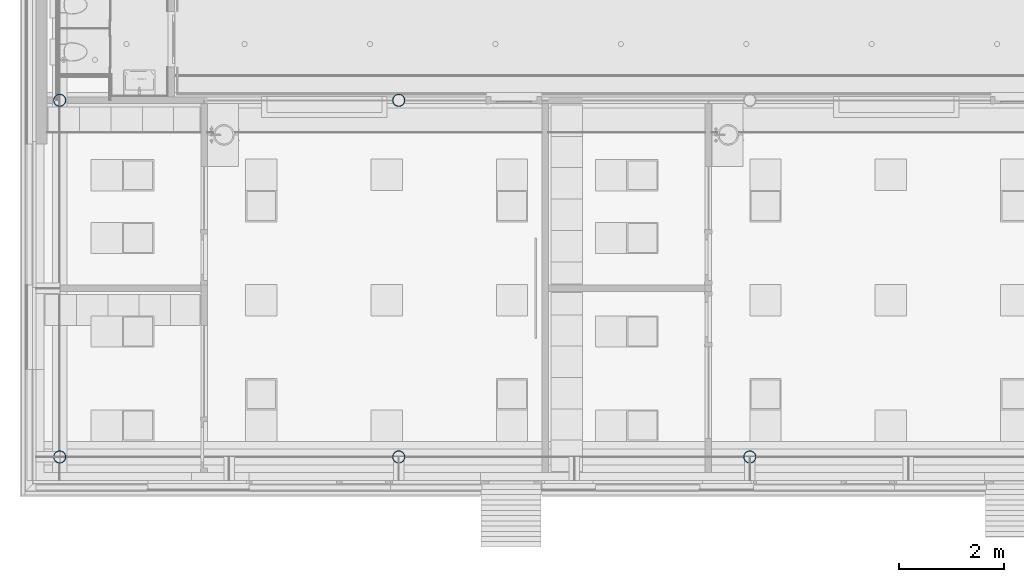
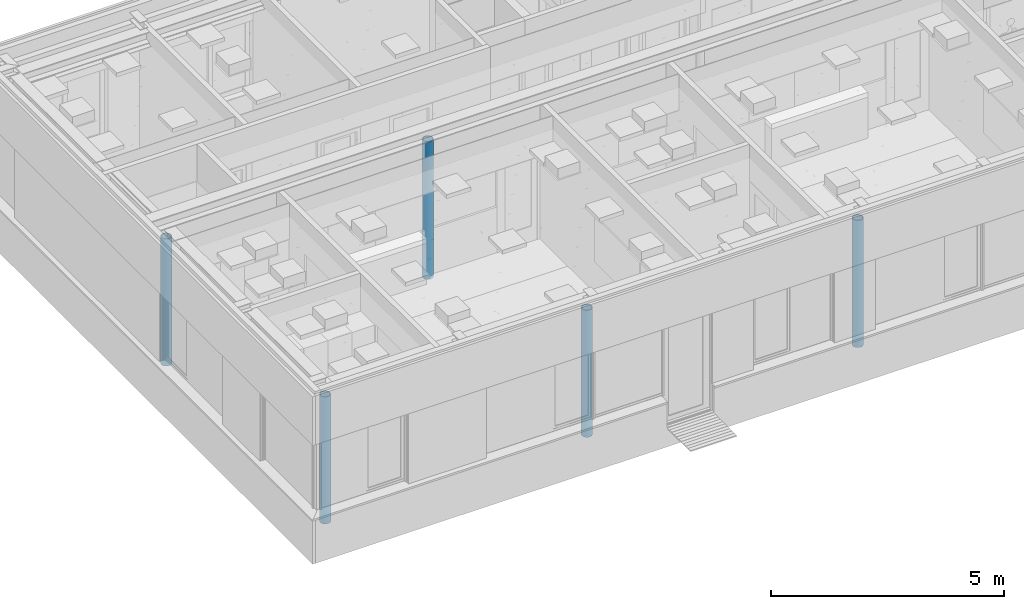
# One storey, part 10 of 347: 5 columns.
"""IFC2X3 building model written with IfcOpenShell, lengths in millimetres."""

from ifc_helpers import new_model, entity, si_unit, converted_unit, derived_unit, money_unit, direction, frame, origin_with_axes, place, context, subcontext, project, spatial, faceted_brep, material, type_object, element, save


model = new_model("IFC2X3")

# Units and contexts
model_context = context("Model", 3, precision=0.01, world=origin_with_axes(), true_north=direction((0.0, 1.0)))
plan_context = context("Plan", 3, precision=0.01, world=origin_with_axes(), true_north=direction((0.0, 1.0)))
body_context = subcontext(model_context, "Body", "Model", "MODEL_VIEW")
ifc_project = project(units=[si_unit("LENGTHUNIT", "METRE", prefix="MILLI"), si_unit("AREAUNIT", "SQUARE_METRE"), si_unit("VOLUMEUNIT", "CUBIC_METRE"), converted_unit("PLANEANGLEUNIT", "DEGREE", entity("IfcPlaneAngleMeasure", 0.0174532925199), si_unit("PLANEANGLEUNIT", "RADIAN"), dimensions=[0, 0, 0, 0, 0, 0, 0]), money_unit("EUR"), converted_unit("TIMEUNIT", "Year", entity("IfcTimeMeasure", 31556926.0), si_unit("TIMEUNIT", "SECOND"), dimensions=[0, 0, 1, 0, 0, 0, 0]), si_unit("MASSUNIT", "GRAM", prefix="KILO"), si_unit("THERMODYNAMICTEMPERATUREUNIT", "DEGREE_CELSIUS"), si_unit("LUMINOUSINTENSITYUNIT", "LUMEN"), si_unit("ENERGYUNIT", "JOULE", prefix="MEGA"), derived_unit("THERMALCONDUCTANCEUNIT", [(si_unit("POWERUNIT", "WATT"), 1), (si_unit("LENGTHUNIT", "METRE"), -1), (si_unit("THERMODYNAMICTEMPERATUREUNIT", "KELVIN"), -1)]), derived_unit("SPECIFICHEATCAPACITYUNIT", [(si_unit("ENERGYUNIT", "JOULE"), 1), (si_unit("MASSUNIT", "GRAM", prefix="KILO"), -1), (si_unit("THERMODYNAMICTEMPERATUREUNIT", "KELVIN"), -1)]), derived_unit("MASSDENSITYUNIT", [(si_unit("MASSUNIT", "GRAM", prefix="KILO"), 1), (si_unit("VOLUMEUNIT", "CUBIC_METRE"), -1)])], contexts=[model_context, plan_context])

# Site, building, storey
site_placement = place(None, origin_with_axes())
site = spatial("IfcSite", under=ifc_project, at=site_placement, Name="Site", CompositionType="ELEMENT")
building_placement = place(site_placement, origin_with_axes())
building = spatial("IfcBuilding", under=site, at=building_placement, Name="Naam gebouw", CompositionType="ELEMENT")
storey_placement = place(building_placement, origin_with_axes())
storey = spatial("IfcBuildingStorey", under=building, at=storey_placement, Name="begane grond", CompositionType="ELEMENT", Elevation=0.0)

# Columns
ifc_material = material(Name="Metaal - Staal C wit")
column_type = type_object("IfcColumnType", Name="Lucht D245", PredefinedType="COLUMN")
column_1_placement = place(storey_placement, frame((5300.0, 12125.0, -70.0), z_axis=(0.0, 0.0, 1.0), x_axis=(1.0, 0.0, 0.0)))
element("IfcColumn", 1, at=column_1_placement, inside=storey, type_object=column_type, material=ifc_material, Name="28_kolom ø 273mm", ObjectType="COLUMN", context=body_context, shape_type="Brep", body=[
    faceted_brep([(-122.25, 0.0, 0.0), (-119.184937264, -27.2031841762, 0.0), (-119.184937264, -27.2031841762, 3330.0), (-122.25, 0.0, 3330.0), (-119.184937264, 27.2031841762, 0.0), (-110.143444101, 53.0422871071, 0.0), (-95.5788987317, 76.2216282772, 0.0), (-76.2216282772, 95.5788987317, 0.0), (-53.0422871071, 110.143444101, 0.0), (-27.2031841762, 119.184937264, 0.0), (0.0, 122.25, 0.0), (27.2031841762, 119.184937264, 0.0), (53.0422871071, 110.143444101, 0.0), (76.2216282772, 95.5788987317, 0.0), (95.5788987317, 76.2216282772, 0.0), (110.143444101, 53.0422871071, 0.0), (119.184937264, 27.2031841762, 0.0), (122.25, 0.0, 0.0), (119.184937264, -27.2031841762, 0.0), (110.143444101, -53.0422871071, 0.0), (95.5788987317, -76.2216282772, 0.0), (76.2216282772, -95.5788987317, 0.0), (53.0422871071, -110.143444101, 0.0), (27.2031841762, -119.184937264, 0.0), (0.0, -122.25, 0.0), (-27.2031841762, -119.184937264, 0.0), (-53.0422871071, -110.143444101, 0.0), (-76.2216282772, -95.5788987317, 0.0), (-95.5788987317, -76.2216282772, 0.0), (-110.143444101, -53.0422871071, 0.0), (-106.25, 0.0, 0.0), (-102.629619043, -27.4995235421, 0.0), (-92.0151991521, -53.125, 0.0), (-75.1300955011, -75.1300955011, 0.0), (-53.125, -92.0151991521, 0.0), (-27.4995235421, -102.629619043, 0.0), (0.0, -106.25, 0.0), (27.4995235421, -102.629619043, 0.0), (53.125, -92.0151991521, 0.0), (75.1300955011, -75.1300955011, 0.0), (92.0151991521, -53.125, 0.0), (102.629619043, -27.4995235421, 0.0), (106.25, 0.0, 0.0), (102.629619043, 27.4995235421, 0.0), (92.0151991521, 53.125, 0.0), (75.1300955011, 75.1300955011, 0.0), (53.125, 92.0151991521, 0.0), (27.4995235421, 102.629619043, 0.0), (0.0, 106.25, 0.0), (-27.4995235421, 102.629619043, 0.0), (-53.125, 92.0151991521, 0.0), (-75.1300955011, 75.1300955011, 0.0), (-92.0151991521, 53.125, 0.0), (-102.629619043, 27.4995235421, 0.0), (-110.143444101, -53.0422871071, 3330.0), (-95.5788987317, -76.2216282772, 3330.0), (-76.2216282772, -95.5788987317, 3330.0), (-53.0422871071, -110.143444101, 3330.0), (-27.2031841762, -119.184937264, 3330.0), (0.0, -122.25, 3330.0), (27.2031841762, -119.184937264, 3330.0), (53.0422871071, -110.143444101, 3330.0), (76.2216282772, -95.5788987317, 3330.0), (95.5788987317, -76.2216282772, 3330.0), (110.143444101, -53.0422871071, 3330.0), (119.184937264, -27.2031841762, 3330.0), (122.25, 0.0, 3330.0), (119.184937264, 27.2031841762, 3330.0), (110.143444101, 53.0422871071, 3330.0), (95.5788987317, 76.2216282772, 3330.0), (76.2216282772, 95.5788987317, 3330.0), (53.0422871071, 110.143444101, 3330.0), (27.2031841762, 119.184937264, 3330.0), (0.0, 122.25, 3330.0), (-27.2031841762, 119.184937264, 3330.0), (-53.0422871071, 110.143444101, 3330.0), (-76.2216282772, 95.5788987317, 3330.0), (-95.5788987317, 76.2216282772, 3330.0), (-110.143444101, 53.0422871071, 3330.0), (-119.184937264, 27.2031841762, 3330.0), (-106.25, 0.0, 3330.0), (-102.629619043, 27.4995235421, 3330.0), (-92.0151991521, 53.125, 3330.0), (-75.1300955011, 75.1300955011, 3330.0), (-53.125, 92.0151991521, 3330.0), (-27.4995235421, 102.629619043, 3330.0), (0.0, 106.25, 3330.0), (27.4995235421, 102.629619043, 3330.0), (53.125, 92.0151991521, 3330.0), (75.1300955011, 75.1300955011, 3330.0), (92.0151991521, 53.125, 3330.0), (102.629619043, 27.4995235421, 3330.0), (106.25, 0.0, 3330.0), (102.629619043, -27.4995235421, 3330.0), (92.0151991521, -53.125, 3330.0), (75.1300955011, -75.1300955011, 3330.0), (53.125, -92.0151991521, 3330.0), (27.4995235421, -102.629619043, 3330.0), (0.0, -106.25, 3330.0), (-27.4995235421, -102.629619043, 3330.0), (-53.125, -92.0151991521, 3330.0), (-75.1300955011, -75.1300955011, 3330.0), (-92.0151991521, -53.125, 3330.0), (-102.629619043, -27.4995235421, 3330.0)], [[[0, 1, 2, 3]], [[0, 4, 5, 6, 7, 8, 9, 10, 11, 12, 13, 14, 15, 16, 17, 18, 19, 20, 21, 22, 23, 24, 25, 26, 27, 28, 29, 1], [30, 31, 32, 33, 34, 35, 36, 37, 38, 39, 40, 41, 42, 43, 44, 45, 46, 47, 48, 49, 50, 51, 52, 53]], [[1, 29, 54, 2]], [[3, 2, 54, 55, 56, 57, 58, 59, 60, 61, 62, 63, 64, 65, 66, 67, 68, 69, 70, 71, 72, 73, 74, 75, 76, 77, 78, 79], [80, 81, 82, 83, 84, 85, 86, 87, 88, 89, 90, 91, 92, 93, 94, 95, 96, 97, 98, 99, 100, 101, 102, 103]], [[4, 0, 3, 79]], [[5, 4, 79, 78]], [[6, 5, 78, 77]], [[7, 6, 77, 76]], [[8, 7, 76, 75]], [[9, 8, 75, 74]], [[10, 9, 74, 73]], [[11, 10, 73, 72]], [[12, 11, 72, 71]], [[13, 12, 71, 70]], [[14, 13, 70, 69]], [[15, 14, 69, 68]], [[16, 15, 68, 67]], [[17, 16, 67, 66]], [[18, 17, 66, 65]], [[19, 18, 65, 64]], [[20, 19, 64, 63]], [[21, 20, 63, 62]], [[22, 21, 62, 61]], [[23, 22, 61, 60]], [[24, 23, 60, 59]], [[25, 24, 59, 58]], [[26, 25, 58, 57]], [[27, 26, 57, 56]], [[28, 27, 56, 55]], [[29, 28, 55, 54]], [[31, 30, 80, 103]], [[32, 31, 103, 102]], [[33, 32, 102, 101]], [[34, 33, 101, 100]], [[35, 34, 100, 99]], [[36, 35, 99, 98]], [[37, 36, 98, 97]], [[38, 37, 97, 96]], [[39, 38, 96, 95]], [[40, 39, 95, 94]], [[41, 40, 94, 93]], [[42, 41, 93, 92]], [[43, 42, 92, 91]], [[44, 43, 91, 90]], [[45, 44, 90, 89]], [[46, 45, 89, 88]], [[47, 46, 88, 87]], [[48, 47, 87, 86]], [[49, 48, 86, 85]], [[50, 49, 85, 84]], [[51, 50, 84, 83]], [[52, 51, 83, 82]], [[53, 52, 82, 81]], [[30, 53, 81, 80]]]),
])
column_2_placement = place(storey_placement, frame((11787.5, 12125.0, -70.0), z_axis=(0.0, 0.0, 1.0), x_axis=(1.0, 0.0, 0.0)))
element("IfcColumn", 2, at=column_2_placement, inside=storey, type_object=column_type, material=ifc_material, Name="28_kolom ø 273mm", ObjectType="COLUMN", context=body_context, shape_type="Brep", body=[
    faceted_brep([(27.8124515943, 102.5, 1070.0), (27.4995235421, 102.629619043, 1070.0), (27.4995235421, 102.629619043, 0.0), (53.125, 92.0151991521, 0.0), (53.125, 92.0151991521, 3610.0), (27.4995235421, 102.629619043, 3610.0), (27.4995235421, 102.629619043, 1270.0), (27.8124515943, 102.5, 1270.0), (65.2067587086, 102.5, 1070.0), (53.0422871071, 110.143444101, 1070.0), (27.2031841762, 119.184937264, 1070.0), (0.0, 122.25, 1070.0), (-27.2031841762, 119.184937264, 1070.0), (-53.0422871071, 110.143444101, 1070.0), (-65.2067587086, 102.5, 1070.0), (-27.8124515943, 102.5, 1070.0), (-27.4995235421, 102.629619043, 1070.0), (0.0, 106.25, 1070.0), (0.0, 106.25, 0.0), (-119.184937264, -27.2031841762, 0.0), (-122.25, 0.0, 0.0), (-119.184937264, 27.2031841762, 0.0), (-110.143444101, 53.0422871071, 0.0), (-95.5788987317, 76.2216282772, 0.0), (-76.2216282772, 95.5788987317, 0.0), (-53.0422871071, 110.143444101, 0.0), (-27.2031841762, 119.184937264, 0.0), (0.0, 122.25, 0.0), (27.2031841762, 119.184937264, 0.0), (53.0422871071, 110.143444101, 0.0), (76.2216282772, 95.5788987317, 0.0), (95.5788987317, 76.2216282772, 0.0), (110.143444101, 53.0422871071, 0.0), (119.184937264, 27.2031841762, 0.0), (122.25, 0.0, 0.0), (119.184937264, -27.2031841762, 0.0), (110.143444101, -53.0422871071, 0.0), (95.5788987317, -76.2216282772, 0.0), (76.2216282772, -95.5788987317, 0.0), (53.0422871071, -110.143444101, 0.0), (27.2031841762, -119.184937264, 0.0), (0.0, -122.25, 0.0), (-27.2031841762, -119.184937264, 0.0), (-53.0422871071, -110.143444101, 0.0), (-76.2216282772, -95.5788987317, 0.0), (-95.5788987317, -76.2216282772, 0.0), (-110.143444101, -53.0422871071, 0.0), (-102.629619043, 27.4995235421, 0.0), (-106.25, 0.0, 0.0), (-102.629619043, -27.4995235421, 0.0), (-92.0151991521, -53.125, 0.0), (-75.1300955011, -75.1300955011, 0.0), (-53.125, -92.0151991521, 0.0), (-27.4995235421, -102.629619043, 0.0), (0.0, -106.25, 0.0), (27.4995235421, -102.629619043, 0.0), (53.125, -92.0151991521, 0.0), (75.1300955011, -75.1300955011, 0.0), (92.0151991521, -53.125, 0.0), (102.629619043, -27.4995235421, 0.0), (106.25, 0.0, 0.0), (102.629619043, 27.4995235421, 0.0), (92.0151991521, 53.125, 0.0), (75.1300955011, 75.1300955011, 0.0), (-27.4995235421, 102.629619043, 0.0), (-53.125, 92.0151991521, 0.0), (-75.1300955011, 75.1300955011, 0.0), (-92.0151991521, 53.125, 0.0), (75.1300955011, 75.1300955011, 3610.0), (-119.184937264, 27.2031841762, 3610.0), (-122.25, 0.0, 3610.0), (-119.184937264, -27.2031841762, 3610.0), (-110.143444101, -53.0422871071, 3610.0), (-95.5788987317, -76.2216282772, 3610.0), (-76.2216282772, -95.5788987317, 3610.0), (-53.0422871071, -110.143444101, 3610.0), (-27.2031841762, -119.184937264, 3610.0), (0.0, -122.25, 3610.0), (27.2031841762, -119.184937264, 3610.0), (53.0422871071, -110.143444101, 3610.0), (76.2216282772, -95.5788987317, 3610.0), (95.5788987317, -76.2216282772, 3610.0), (110.143444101, -53.0422871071, 3610.0), (119.184937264, -27.2031841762, 3610.0), (122.25, 0.0, 3610.0), (119.184937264, 27.2031841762, 3610.0), (110.143444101, 53.0422871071, 3610.0), (95.5788987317, 76.2216282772, 3610.0), (76.2216282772, 95.5788987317, 3610.0), (53.0422871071, 110.143444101, 3610.0), (27.2031841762, 119.184937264, 3610.0), (0.0, 122.25, 3610.0), (-27.2031841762, 119.184937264, 3610.0), (-53.0422871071, 110.143444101, 3610.0), (-76.2216282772, 95.5788987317, 3610.0), (-95.5788987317, 76.2216282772, 3610.0), (-110.143444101, 53.0422871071, 3610.0), (-102.629619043, -27.4995235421, 3610.0), (-106.25, 0.0, 3610.0), (-102.629619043, 27.4995235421, 3610.0), (-92.0151991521, 53.125, 3610.0), (-75.1300955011, 75.1300955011, 3610.0), (-53.125, 92.0151991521, 3610.0), (-27.4995235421, 102.629619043, 3610.0), (0.0, 106.25, 3610.0), (92.0151991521, 53.125, 3610.0), (102.629619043, 27.4995235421, 3610.0), (106.25, 0.0, 3610.0), (102.629619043, -27.4995235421, 3610.0), (92.0151991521, -53.125, 3610.0), (75.1300955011, -75.1300955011, 3610.0), (53.125, -92.0151991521, 3610.0), (27.4995235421, -102.629619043, 3610.0), (0.0, -106.25, 3610.0), (-27.4995235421, -102.629619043, 3610.0), (-53.125, -92.0151991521, 3610.0), (-75.1300955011, -75.1300955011, 3610.0), (-92.0151991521, -53.125, 3610.0), (0.0, 106.25, 1270.0), (53.0422871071, 110.143444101, 1270.0), (65.2067587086, 102.5, 1270.0), (-27.4995235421, 102.629619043, 1270.0), (-27.8124515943, 102.5, 1270.0), (-65.2067587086, 102.5, 1270.0), (-53.0422871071, 110.143444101, 1270.0), (-27.2031841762, 119.184937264, 1270.0), (0.0, 122.25, 1270.0), (27.2031841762, 119.184937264, 1270.0)], [[[0, 1, 2, 3, 4, 5, 6, 7]], [[8, 9, 10, 11, 12, 13, 14, 15, 16, 17, 1, 0]], [[1, 17, 18, 2]], [[19, 20, 21, 22, 23, 24, 25, 26, 27, 28, 29, 30, 31, 32, 33, 34, 35, 36, 37, 38, 39, 40, 41, 42, 43, 44, 45, 46], [47, 48, 49, 50, 51, 52, 53, 54, 55, 56, 57, 58, 59, 60, 61, 62, 63, 3, 2, 18, 64, 65, 66, 67]], [[4, 3, 63, 68]], [[69, 70, 71, 72, 73, 74, 75, 76, 77, 78, 79, 80, 81, 82, 83, 84, 85, 86, 87, 88, 89, 90, 91, 92, 93, 94, 95, 96], [97, 98, 99, 100, 101, 102, 103, 104, 5, 4, 68, 105, 106, 107, 108, 109, 110, 111, 112, 113, 114, 115, 116, 117]], [[118, 6, 5, 104]], [[119, 120, 7, 6, 118, 121, 122, 123, 124, 125, 126, 127]], [[120, 8, 0, 7]], [[9, 8, 120, 119, 89, 88, 30, 29]], [[10, 9, 29, 28]], [[11, 10, 28, 27]], [[12, 11, 27, 26]], [[13, 12, 26, 25]], [[14, 13, 25, 24, 94, 93, 124, 123]], [[122, 15, 14, 123]], [[122, 121, 103, 102, 65, 64, 16, 15]], [[17, 16, 64, 18]], [[70, 20, 19, 71]], [[69, 21, 20, 70]], [[96, 22, 21, 69]], [[95, 23, 22, 96]], [[94, 24, 23, 95]], [[87, 31, 30, 88]], [[86, 32, 31, 87]], [[85, 33, 32, 86]], [[84, 34, 33, 85]], [[83, 35, 34, 84]], [[82, 36, 35, 83]], [[81, 37, 36, 82]], [[80, 38, 37, 81]], [[79, 39, 38, 80]], [[78, 40, 39, 79]], [[77, 41, 40, 78]], [[76, 42, 41, 77]], [[75, 43, 42, 76]], [[74, 44, 43, 75]], [[73, 45, 44, 74]], [[72, 46, 45, 73]], [[71, 19, 46, 72]], [[98, 48, 47, 99]], [[97, 49, 48, 98]], [[117, 50, 49, 97]], [[116, 51, 50, 117]], [[115, 52, 51, 116]], [[114, 53, 52, 115]], [[113, 54, 53, 114]], [[112, 55, 54, 113]], [[111, 56, 55, 112]], [[110, 57, 56, 111]], [[109, 58, 57, 110]], [[108, 59, 58, 109]], [[107, 60, 59, 108]], [[106, 61, 60, 107]], [[105, 62, 61, 106]], [[68, 63, 62, 105]], [[101, 66, 65, 102]], [[100, 67, 66, 101]], [[99, 47, 67, 100]], [[119, 127, 90, 89]], [[127, 126, 91, 90]], [[126, 125, 92, 91]], [[125, 124, 93, 92]], [[121, 118, 104, 103]]]),
])
column_3_placement = place(storey_placement, frame((5300.0, 5300.0, -70.0), z_axis=(0.0, 0.0, 1.0), x_axis=(1.0, 0.0, 0.0)))
element("IfcColumn", 3, at=column_3_placement, inside=storey, type_object=column_type, material=ifc_material, Name="28_kolom ø 273mm", ObjectType="COLUMN", context=body_context, shape_type="Brep", body=[
    faceted_brep([(-122.25, 0.0, 0.0), (-119.184937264, -27.2031841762, 0.0), (-119.184937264, -27.2031841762, 3330.0), (-122.25, 0.0, 3330.0), (-119.184937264, 27.2031841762, 0.0), (-110.143444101, 53.0422871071, 0.0), (-95.5788987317, 76.2216282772, 0.0), (-76.2216282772, 95.5788987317, 0.0), (-53.0422871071, 110.143444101, 0.0), (-27.2031841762, 119.184937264, 0.0), (0.0, 122.25, 0.0), (27.2031841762, 119.184937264, 0.0), (53.0422871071, 110.143444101, 0.0), (76.2216282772, 95.5788987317, 0.0), (95.5788987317, 76.2216282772, 0.0), (110.143444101, 53.0422871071, 0.0), (119.184937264, 27.2031841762, 0.0), (122.25, 0.0, 0.0), (119.184937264, -27.2031841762, 0.0), (110.143444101, -53.0422871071, 0.0), (95.5788987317, -76.2216282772, 0.0), (76.2216282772, -95.5788987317, 0.0), (53.0422871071, -110.143444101, 0.0), (27.2031841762, -119.184937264, 0.0), (0.0, -122.25, 0.0), (-27.2031841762, -119.184937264, 0.0), (-53.0422871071, -110.143444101, 0.0), (-76.2216282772, -95.5788987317, 0.0), (-95.5788987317, -76.2216282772, 0.0), (-110.143444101, -53.0422871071, 0.0), (-106.25, 0.0, 0.0), (-102.629619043, -27.4995235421, 0.0), (-92.0151991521, -53.125, 0.0), (-75.1300955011, -75.1300955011, 0.0), (-53.125, -92.0151991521, 0.0), (-27.4995235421, -102.629619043, 0.0), (0.0, -106.25, 0.0), (27.4995235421, -102.629619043, 0.0), (53.125, -92.0151991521, 0.0), (75.1300955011, -75.1300955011, 0.0), (92.0151991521, -53.125, 0.0), (102.629619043, -27.4995235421, 0.0), (106.25, 0.0, 0.0), (102.629619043, 27.4995235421, 0.0), (92.0151991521, 53.125, 0.0), (75.1300955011, 75.1300955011, 0.0), (53.125, 92.0151991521, 0.0), (27.4995235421, 102.629619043, 0.0), (0.0, 106.25, 0.0), (-27.4995235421, 102.629619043, 0.0), (-53.125, 92.0151991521, 0.0), (-75.1300955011, 75.1300955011, 0.0), (-92.0151991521, 53.125, 0.0), (-102.629619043, 27.4995235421, 0.0), (-110.143444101, -53.0422871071, 3330.0), (-95.5788987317, -76.2216282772, 3330.0), (-76.2216282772, -95.5788987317, 3330.0), (-53.0422871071, -110.143444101, 3330.0), (-27.2031841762, -119.184937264, 3330.0), (0.0, -122.25, 3330.0), (27.2031841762, -119.184937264, 3330.0), (53.0422871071, -110.143444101, 3330.0), (76.2216282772, -95.5788987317, 3330.0), (95.5788987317, -76.2216282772, 3330.0), (110.143444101, -53.0422871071, 3330.0), (119.184937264, -27.2031841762, 3330.0), (122.25, 0.0, 3330.0), (119.184937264, 27.2031841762, 3330.0), (110.143444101, 53.0422871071, 3330.0), (95.5788987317, 76.2216282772, 3330.0), (76.2216282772, 95.5788987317, 3330.0), (53.0422871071, 110.143444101, 3330.0), (27.2031841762, 119.184937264, 3330.0), (0.0, 122.25, 3330.0), (-27.2031841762, 119.184937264, 3330.0), (-53.0422871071, 110.143444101, 3330.0), (-76.2216282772, 95.5788987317, 3330.0), (-95.5788987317, 76.2216282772, 3330.0), (-110.143444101, 53.0422871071, 3330.0), (-119.184937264, 27.2031841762, 3330.0), (-106.25, 0.0, 3330.0), (-102.629619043, 27.4995235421, 3330.0), (-92.0151991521, 53.125, 3330.0), (-75.1300955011, 75.1300955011, 3330.0), (-53.125, 92.0151991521, 3330.0), (-27.4995235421, 102.629619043, 3330.0), (0.0, 106.25, 3330.0), (27.4995235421, 102.629619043, 3330.0), (53.125, 92.0151991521, 3330.0), (75.1300955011, 75.1300955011, 3330.0), (92.0151991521, 53.125, 3330.0), (102.629619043, 27.4995235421, 3330.0), (106.25, 0.0, 3330.0), (102.629619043, -27.4995235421, 3330.0), (92.0151991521, -53.125, 3330.0), (75.1300955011, -75.1300955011, 3330.0), (53.125, -92.0151991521, 3330.0), (27.4995235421, -102.629619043, 3330.0), (0.0, -106.25, 3330.0), (-27.4995235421, -102.629619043, 3330.0), (-53.125, -92.0151991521, 3330.0), (-75.1300955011, -75.1300955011, 3330.0), (-92.0151991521, -53.125, 3330.0), (-102.629619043, -27.4995235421, 3330.0)], [[[0, 1, 2, 3]], [[0, 4, 5, 6, 7, 8, 9, 10, 11, 12, 13, 14, 15, 16, 17, 18, 19, 20, 21, 22, 23, 24, 25, 26, 27, 28, 29, 1], [30, 31, 32, 33, 34, 35, 36, 37, 38, 39, 40, 41, 42, 43, 44, 45, 46, 47, 48, 49, 50, 51, 52, 53]], [[1, 29, 54, 2]], [[3, 2, 54, 55, 56, 57, 58, 59, 60, 61, 62, 63, 64, 65, 66, 67, 68, 69, 70, 71, 72, 73, 74, 75, 76, 77, 78, 79], [80, 81, 82, 83, 84, 85, 86, 87, 88, 89, 90, 91, 92, 93, 94, 95, 96, 97, 98, 99, 100, 101, 102, 103]], [[4, 0, 3, 79]], [[5, 4, 79, 78]], [[6, 5, 78, 77]], [[7, 6, 77, 76]], [[8, 7, 76, 75]], [[9, 8, 75, 74]], [[10, 9, 74, 73]], [[11, 10, 73, 72]], [[12, 11, 72, 71]], [[13, 12, 71, 70]], [[14, 13, 70, 69]], [[15, 14, 69, 68]], [[16, 15, 68, 67]], [[17, 16, 67, 66]], [[18, 17, 66, 65]], [[19, 18, 65, 64]], [[20, 19, 64, 63]], [[21, 20, 63, 62]], [[22, 21, 62, 61]], [[23, 22, 61, 60]], [[24, 23, 60, 59]], [[25, 24, 59, 58]], [[26, 25, 58, 57]], [[27, 26, 57, 56]], [[28, 27, 56, 55]], [[29, 28, 55, 54]], [[31, 30, 80, 103]], [[32, 31, 103, 102]], [[33, 32, 102, 101]], [[34, 33, 101, 100]], [[35, 34, 100, 99]], [[36, 35, 99, 98]], [[37, 36, 98, 97]], [[38, 37, 97, 96]], [[39, 38, 96, 95]], [[40, 39, 95, 94]], [[41, 40, 94, 93]], [[42, 41, 93, 92]], [[43, 42, 92, 91]], [[44, 43, 91, 90]], [[45, 44, 90, 89]], [[46, 45, 89, 88]], [[47, 46, 88, 87]], [[48, 47, 87, 86]], [[49, 48, 86, 85]], [[50, 49, 85, 84]], [[51, 50, 84, 83]], [[52, 51, 83, 82]], [[53, 52, 82, 81]], [[30, 53, 81, 80]]]),
])
column_4_placement = place(storey_placement, frame((11787.5, 5300.0, -70.0), z_axis=(0.0, 0.0, 1.0), x_axis=(1.0, 0.0, 0.0)))
element("IfcColumn", 4, at=column_4_placement, inside=storey, type_object=column_type, material=ifc_material, Name="28_kolom ø 273mm", ObjectType="COLUMN", context=body_context, shape_type="Brep", body=[
    faceted_brep([(-122.25, 0.0, 0.0), (-119.184937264, -27.2031841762, 0.0), (-119.184937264, -27.2031841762, 3330.0), (-122.25, 0.0, 3330.0), (-119.184937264, 27.2031841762, 0.0), (-110.143444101, 53.0422871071, 0.0), (-95.5788987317, 76.2216282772, 0.0), (-76.2216282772, 95.5788987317, 0.0), (-53.0422871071, 110.143444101, 0.0), (-27.2031841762, 119.184937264, 0.0), (0.0, 122.25, 0.0), (27.2031841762, 119.184937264, 0.0), (53.0422871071, 110.143444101, 0.0), (76.2216282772, 95.5788987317, 0.0), (95.5788987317, 76.2216282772, 0.0), (110.143444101, 53.0422871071, 0.0), (119.184937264, 27.2031841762, 0.0), (122.25, 0.0, 0.0), (119.184937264, -27.2031841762, 0.0), (110.143444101, -53.0422871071, 0.0), (95.5788987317, -76.2216282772, 0.0), (76.2216282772, -95.5788987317, 0.0), (53.0422871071, -110.143444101, 0.0), (27.2031841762, -119.184937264, 0.0), (0.0, -122.25, 0.0), (-27.2031841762, -119.184937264, 0.0), (-53.0422871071, -110.143444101, 0.0), (-76.2216282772, -95.5788987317, 0.0), (-95.5788987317, -76.2216282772, 0.0), (-110.143444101, -53.0422871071, 0.0), (-106.25, 0.0, 0.0), (-102.629619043, -27.4995235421, 0.0), (-92.0151991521, -53.125, 0.0), (-75.1300955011, -75.1300955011, 0.0), (-53.125, -92.0151991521, 0.0), (-27.4995235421, -102.629619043, 0.0), (0.0, -106.25, 0.0), (27.4995235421, -102.629619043, 0.0), (53.125, -92.0151991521, 0.0), (75.1300955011, -75.1300955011, 0.0), (92.0151991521, -53.125, 0.0), (102.629619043, -27.4995235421, 0.0), (106.25, 0.0, 0.0), (102.629619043, 27.4995235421, 0.0), (92.0151991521, 53.125, 0.0), (75.1300955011, 75.1300955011, 0.0), (53.125, 92.0151991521, 0.0), (27.4995235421, 102.629619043, 0.0), (0.0, 106.25, 0.0), (-27.4995235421, 102.629619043, 0.0), (-53.125, 92.0151991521, 0.0), (-75.1300955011, 75.1300955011, 0.0), (-92.0151991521, 53.125, 0.0), (-102.629619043, 27.4995235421, 0.0), (-110.143444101, -53.0422871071, 3330.0), (-95.5788987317, -76.2216282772, 3330.0), (-76.2216282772, -95.5788987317, 3330.0), (-53.0422871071, -110.143444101, 3330.0), (-27.2031841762, -119.184937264, 3330.0), (0.0, -122.25, 3330.0), (27.2031841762, -119.184937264, 3330.0), (53.0422871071, -110.143444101, 3330.0), (76.2216282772, -95.5788987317, 3330.0), (95.5788987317, -76.2216282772, 3330.0), (110.143444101, -53.0422871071, 3330.0), (119.184937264, -27.2031841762, 3330.0), (122.25, 0.0, 3330.0), (119.184937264, 27.2031841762, 3330.0), (110.143444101, 53.0422871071, 3330.0), (95.5788987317, 76.2216282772, 3330.0), (76.2216282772, 95.5788987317, 3330.0), (53.0422871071, 110.143444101, 3330.0), (27.2031841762, 119.184937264, 3330.0), (0.0, 122.25, 3330.0), (-27.2031841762, 119.184937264, 3330.0), (-53.0422871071, 110.143444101, 3330.0), (-76.2216282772, 95.5788987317, 3330.0), (-95.5788987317, 76.2216282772, 3330.0), (-110.143444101, 53.0422871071, 3330.0), (-119.184937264, 27.2031841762, 3330.0), (-106.25, 0.0, 3330.0), (-102.629619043, 27.4995235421, 3330.0), (-92.0151991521, 53.125, 3330.0), (-75.1300955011, 75.1300955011, 3330.0), (-53.125, 92.0151991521, 3330.0), (-27.4995235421, 102.629619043, 3330.0), (0.0, 106.25, 3330.0), (27.4995235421, 102.629619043, 3330.0), (53.125, 92.0151991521, 3330.0), (75.1300955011, 75.1300955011, 3330.0), (92.0151991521, 53.125, 3330.0), (102.629619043, 27.4995235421, 3330.0), (106.25, 0.0, 3330.0), (102.629619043, -27.4995235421, 3330.0), (92.0151991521, -53.125, 3330.0), (75.1300955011, -75.1300955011, 3330.0), (53.125, -92.0151991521, 3330.0), (27.4995235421, -102.629619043, 3330.0), (0.0, -106.25, 3330.0), (-27.4995235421, -102.629619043, 3330.0), (-53.125, -92.0151991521, 3330.0), (-75.1300955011, -75.1300955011, 3330.0), (-92.0151991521, -53.125, 3330.0), (-102.629619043, -27.4995235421, 3330.0)], [[[0, 1, 2, 3]], [[0, 4, 5, 6, 7, 8, 9, 10, 11, 12, 13, 14, 15, 16, 17, 18, 19, 20, 21, 22, 23, 24, 25, 26, 27, 28, 29, 1], [30, 31, 32, 33, 34, 35, 36, 37, 38, 39, 40, 41, 42, 43, 44, 45, 46, 47, 48, 49, 50, 51, 52, 53]], [[1, 29, 54, 2]], [[3, 2, 54, 55, 56, 57, 58, 59, 60, 61, 62, 63, 64, 65, 66, 67, 68, 69, 70, 71, 72, 73, 74, 75, 76, 77, 78, 79], [80, 81, 82, 83, 84, 85, 86, 87, 88, 89, 90, 91, 92, 93, 94, 95, 96, 97, 98, 99, 100, 101, 102, 103]], [[4, 0, 3, 79]], [[5, 4, 79, 78]], [[6, 5, 78, 77]], [[7, 6, 77, 76]], [[8, 7, 76, 75]], [[9, 8, 75, 74]], [[10, 9, 74, 73]], [[11, 10, 73, 72]], [[12, 11, 72, 71]], [[13, 12, 71, 70]], [[14, 13, 70, 69]], [[15, 14, 69, 68]], [[16, 15, 68, 67]], [[17, 16, 67, 66]], [[18, 17, 66, 65]], [[19, 18, 65, 64]], [[20, 19, 64, 63]], [[21, 20, 63, 62]], [[22, 21, 62, 61]], [[23, 22, 61, 60]], [[24, 23, 60, 59]], [[25, 24, 59, 58]], [[26, 25, 58, 57]], [[27, 26, 57, 56]], [[28, 27, 56, 55]], [[29, 28, 55, 54]], [[31, 30, 80, 103]], [[32, 31, 103, 102]], [[33, 32, 102, 101]], [[34, 33, 101, 100]], [[35, 34, 100, 99]], [[36, 35, 99, 98]], [[37, 36, 98, 97]], [[38, 37, 97, 96]], [[39, 38, 96, 95]], [[40, 39, 95, 94]], [[41, 40, 94, 93]], [[42, 41, 93, 92]], [[43, 42, 92, 91]], [[44, 43, 91, 90]], [[45, 44, 90, 89]], [[46, 45, 89, 88]], [[47, 46, 88, 87]], [[48, 47, 87, 86]], [[49, 48, 86, 85]], [[50, 49, 85, 84]], [[51, 50, 84, 83]], [[52, 51, 83, 82]], [[53, 52, 82, 81]], [[30, 53, 81, 80]]]),
])
column_5_placement = place(storey_placement, frame((18505.0, 5300.0, -70.0), z_axis=(0.0, 0.0, 1.0), x_axis=(1.0, 0.0, 0.0)))
element("IfcColumn", 5, at=column_5_placement, inside=storey, type_object=column_type, material=ifc_material, Name="28_kolom ø 273mm", ObjectType="COLUMN", context=body_context, shape_type="Brep", body=[
    faceted_brep([(-122.25, 0.0, 0.0), (-119.184937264, -27.2031841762, 0.0), (-119.184937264, -27.2031841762, 3330.0), (-122.25, 0.0, 3330.0), (-119.184937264, 27.2031841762, 0.0), (-110.143444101, 53.0422871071, 0.0), (-95.5788987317, 76.2216282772, 0.0), (-76.2216282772, 95.5788987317, 0.0), (-53.0422871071, 110.143444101, 0.0), (-27.2031841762, 119.184937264, 0.0), (0.0, 122.25, 0.0), (27.2031841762, 119.184937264, 0.0), (53.0422871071, 110.143444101, 0.0), (76.2216282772, 95.5788987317, 0.0), (95.5788987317, 76.2216282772, 0.0), (110.143444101, 53.0422871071, 0.0), (119.184937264, 27.2031841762, 0.0), (122.25, 0.0, 0.0), (119.184937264, -27.2031841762, 0.0), (110.143444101, -53.0422871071, 0.0), (95.5788987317, -76.2216282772, 0.0), (76.2216282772, -95.5788987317, 0.0), (53.0422871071, -110.143444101, 0.0), (27.2031841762, -119.184937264, 0.0), (0.0, -122.25, 0.0), (-27.2031841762, -119.184937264, 0.0), (-53.0422871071, -110.143444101, 0.0), (-76.2216282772, -95.5788987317, 0.0), (-95.5788987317, -76.2216282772, 0.0), (-110.143444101, -53.0422871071, 0.0), (-106.25, 0.0, 0.0), (-102.629619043, -27.4995235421, 0.0), (-92.0151991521, -53.125, 0.0), (-75.1300955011, -75.1300955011, 0.0), (-53.125, -92.0151991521, 0.0), (-27.4995235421, -102.629619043, 0.0), (0.0, -106.25, 0.0), (27.4995235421, -102.629619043, 0.0), (53.125, -92.0151991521, 0.0), (75.1300955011, -75.1300955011, 0.0), (92.0151991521, -53.125, 0.0), (102.629619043, -27.4995235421, 0.0), (106.25, 0.0, 0.0), (102.629619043, 27.4995235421, 0.0), (92.0151991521, 53.125, 0.0), (75.1300955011, 75.1300955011, 0.0), (53.125, 92.0151991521, 0.0), (27.4995235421, 102.629619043, 0.0), (0.0, 106.25, 0.0), (-27.4995235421, 102.629619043, 0.0), (-53.125, 92.0151991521, 0.0), (-75.1300955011, 75.1300955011, 0.0), (-92.0151991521, 53.125, 0.0), (-102.629619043, 27.4995235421, 0.0), (-110.143444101, -53.0422871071, 3330.0), (-95.5788987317, -76.2216282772, 3330.0), (-76.2216282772, -95.5788987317, 3330.0), (-53.0422871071, -110.143444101, 3330.0), (-27.2031841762, -119.184937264, 3330.0), (0.0, -122.25, 3330.0), (27.2031841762, -119.184937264, 3330.0), (53.0422871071, -110.143444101, 3330.0), (76.2216282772, -95.5788987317, 3330.0), (95.5788987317, -76.2216282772, 3330.0), (110.143444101, -53.0422871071, 3330.0), (119.184937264, -27.2031841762, 3330.0), (122.25, 0.0, 3330.0), (119.184937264, 27.2031841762, 3330.0), (110.143444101, 53.0422871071, 3330.0), (95.5788987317, 76.2216282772, 3330.0), (76.2216282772, 95.5788987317, 3330.0), (53.0422871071, 110.143444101, 3330.0), (27.2031841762, 119.184937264, 3330.0), (0.0, 122.25, 3330.0), (-27.2031841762, 119.184937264, 3330.0), (-53.0422871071, 110.143444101, 3330.0), (-76.2216282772, 95.5788987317, 3330.0), (-95.5788987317, 76.2216282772, 3330.0), (-110.143444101, 53.0422871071, 3330.0), (-119.184937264, 27.2031841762, 3330.0), (-106.25, 0.0, 3330.0), (-102.629619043, 27.4995235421, 3330.0), (-92.0151991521, 53.125, 3330.0), (-75.1300955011, 75.1300955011, 3330.0), (-53.125, 92.0151991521, 3330.0), (-27.4995235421, 102.629619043, 3330.0), (0.0, 106.25, 3330.0), (27.4995235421, 102.629619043, 3330.0), (53.125, 92.0151991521, 3330.0), (75.1300955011, 75.1300955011, 3330.0), (92.0151991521, 53.125, 3330.0), (102.629619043, 27.4995235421, 3330.0), (106.25, 0.0, 3330.0), (102.629619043, -27.4995235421, 3330.0), (92.0151991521, -53.125, 3330.0), (75.1300955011, -75.1300955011, 3330.0), (53.125, -92.0151991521, 3330.0), (27.4995235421, -102.629619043, 3330.0), (0.0, -106.25, 3330.0), (-27.4995235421, -102.629619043, 3330.0), (-53.125, -92.0151991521, 3330.0), (-75.1300955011, -75.1300955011, 3330.0), (-92.0151991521, -53.125, 3330.0), (-102.629619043, -27.4995235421, 3330.0)], [[[0, 1, 2, 3]], [[0, 4, 5, 6, 7, 8, 9, 10, 11, 12, 13, 14, 15, 16, 17, 18, 19, 20, 21, 22, 23, 24, 25, 26, 27, 28, 29, 1], [30, 31, 32, 33, 34, 35, 36, 37, 38, 39, 40, 41, 42, 43, 44, 45, 46, 47, 48, 49, 50, 51, 52, 53]], [[1, 29, 54, 2]], [[3, 2, 54, 55, 56, 57, 58, 59, 60, 61, 62, 63, 64, 65, 66, 67, 68, 69, 70, 71, 72, 73, 74, 75, 76, 77, 78, 79], [80, 81, 82, 83, 84, 85, 86, 87, 88, 89, 90, 91, 92, 93, 94, 95, 96, 97, 98, 99, 100, 101, 102, 103]], [[4, 0, 3, 79]], [[5, 4, 79, 78]], [[6, 5, 78, 77]], [[7, 6, 77, 76]], [[8, 7, 76, 75]], [[9, 8, 75, 74]], [[10, 9, 74, 73]], [[11, 10, 73, 72]], [[12, 11, 72, 71]], [[13, 12, 71, 70]], [[14, 13, 70, 69]], [[15, 14, 69, 68]], [[16, 15, 68, 67]], [[17, 16, 67, 66]], [[18, 17, 66, 65]], [[19, 18, 65, 64]], [[20, 19, 64, 63]], [[21, 20, 63, 62]], [[22, 21, 62, 61]], [[23, 22, 61, 60]], [[24, 23, 60, 59]], [[25, 24, 59, 58]], [[26, 25, 58, 57]], [[27, 26, 57, 56]], [[28, 27, 56, 55]], [[29, 28, 55, 54]], [[31, 30, 80, 103]], [[32, 31, 103, 102]], [[33, 32, 102, 101]], [[34, 33, 101, 100]], [[35, 34, 100, 99]], [[36, 35, 99, 98]], [[37, 36, 98, 97]], [[38, 37, 97, 96]], [[39, 38, 96, 95]], [[40, 39, 95, 94]], [[41, 40, 94, 93]], [[42, 41, 93, 92]], [[43, 42, 92, 91]], [[44, 43, 91, 90]], [[45, 44, 90, 89]], [[46, 45, 89, 88]], [[47, 46, 88, 87]], [[48, 47, 87, 86]], [[49, 48, 86, 85]], [[50, 49, 85, 84]], [[51, 50, 84, 83]], [[52, 51, 83, 82]], [[53, 52, 82, 81]], [[30, 53, 81, 80]]]),
])

save(model, "model.ifc")
